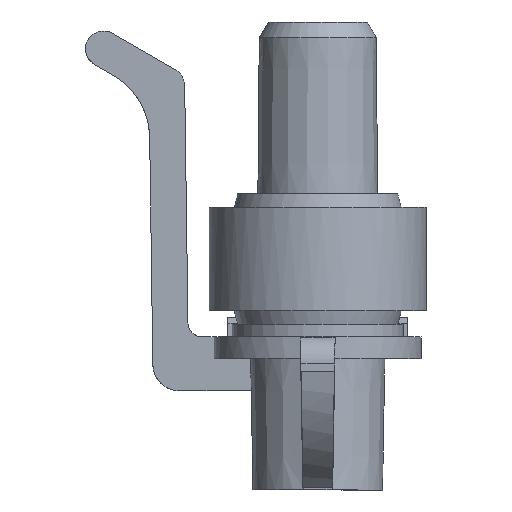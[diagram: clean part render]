
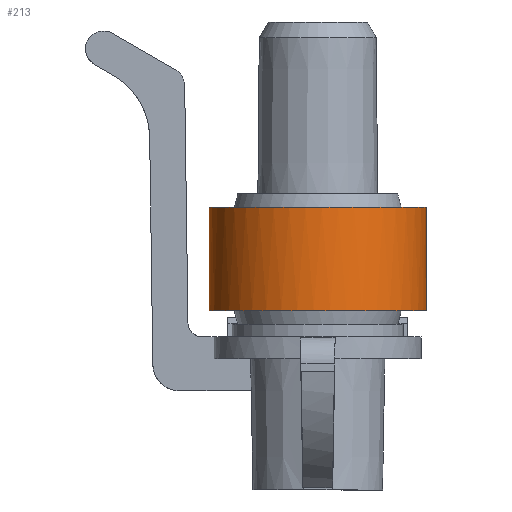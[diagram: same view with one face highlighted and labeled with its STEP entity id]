
A CAD part, left-side view. The second image highlights one B-rep face of the part: STEP entity #213.
In plain terms, the highlighted free-form (B-spline) face has degree [1, 3] with [2, 7] control points.
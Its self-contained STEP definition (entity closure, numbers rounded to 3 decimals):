
#37=B_SPLINE_SURFACE_WITH_KNOTS('',1,3,((#3365,#3366,#3367,#3368,#3369,
#3370,#3371),(#3372,#3373,#3374,#3375,#3376,#3377,#3378)),.UNSPECIFIED.,
 .F.,.F.,.F.,(2,2),(4,1,1,1,4),(0.,1.),(0.,0.25,0.5,0.75,
1.),.UNSPECIFIED.);
#103=B_SPLINE_CURVE_WITH_KNOTS('',3,(#3244,#3245,#3246,#3247,#3248,#3249,
#3250),.UNSPECIFIED.,.F.,.F.,(4,1,1,1,4),(0.,0.25,0.5,0.75,
1.),.UNSPECIFIED.);
#110=B_SPLINE_CURVE_WITH_KNOTS('',3,(#3321,#3322,#3323,#3324,#3325,#3326,
#3327),.UNSPECIFIED.,.F.,.F.,(4,1,1,1,4),(0.,0.25,0.5,0.75,
1.),.UNSPECIFIED.);
#213=ADVANCED_FACE('',(#380),#37,.T.);
#380=FACE_OUTER_BOUND('',#486,.T.);
#486=EDGE_LOOP('',(#1004,#1005,#1006,#1007));
#1004=ORIENTED_EDGE('',*,*,#1555,.T.);
#1005=ORIENTED_EDGE('',*,*,#1568,.T.);
#1006=ORIENTED_EDGE('',*,*,#1572,.T.);
#1007=ORIENTED_EDGE('',*,*,#1556,.T.);
#1296=VERTEX_POINT('',#3236);
#1299=VERTEX_POINT('',#3241);
#1300=VERTEX_POINT('',#3251);
#1307=VERTEX_POINT('',#3320);
#1555=EDGE_CURVE('',#1296,#1299,#1757,.T.);
#1556=EDGE_CURVE('',#1300,#1296,#103,.T.);
#1568=EDGE_CURVE('',#1299,#1307,#110,.T.);
#1572=EDGE_CURVE('',#1307,#1300,#1766,.T.);
#1757=LINE('',#3242,#1947);
#1766=LINE('',#3361,#1956);
#1947=VECTOR('',#2550,1.);
#1956=VECTOR('',#2567,1.);
#2550=DIRECTION('',(0.,0.,-1.));
#2567=DIRECTION('',(0.,0.,1.));
#3236=CARTESIAN_POINT('',(-9.186,6.039,-4.8));
#3241=CARTESIAN_POINT('',(-9.186,6.039,-10.55));
#3242=CARTESIAN_POINT('',(-9.186,6.039,-7.675));
#3244=CARTESIAN_POINT('',(-9.186,-6.039,-4.8));
#3245=CARTESIAN_POINT('',(-10.625,-6.039,-4.8));
#3246=CARTESIAN_POINT('',(-13.877,-4.691,-4.8));
#3247=CARTESIAN_POINT('',(-15.821,0.,-4.8));
#3248=CARTESIAN_POINT('',(-13.877,4.69,-4.8));
#3249=CARTESIAN_POINT('',(-10.625,6.039,-4.8));
#3250=CARTESIAN_POINT('',(-9.186,6.039,-4.8));
#3251=CARTESIAN_POINT('',(-9.186,-6.039,-4.8));
#3320=CARTESIAN_POINT('',(-9.186,-6.039,-10.55));
#3321=CARTESIAN_POINT('',(-9.186,6.039,-10.55));
#3322=CARTESIAN_POINT('',(-10.625,6.039,-10.55));
#3323=CARTESIAN_POINT('',(-13.877,4.69,-10.55));
#3324=CARTESIAN_POINT('',(-15.821,0.,-10.55));
#3325=CARTESIAN_POINT('',(-13.877,-4.691,-10.55));
#3326=CARTESIAN_POINT('',(-10.625,-6.039,-10.55));
#3327=CARTESIAN_POINT('',(-9.186,-6.039,-10.55));
#3361=CARTESIAN_POINT('',(-9.186,-6.039,-7.675));
#3365=CARTESIAN_POINT('',(-9.186,6.039,-4.8));
#3366=CARTESIAN_POINT('',(-10.625,6.039,-4.8));
#3367=CARTESIAN_POINT('',(-13.877,4.69,-4.8));
#3368=CARTESIAN_POINT('',(-15.821,0.,-4.8));
#3369=CARTESIAN_POINT('',(-13.877,-4.691,-4.8));
#3370=CARTESIAN_POINT('',(-10.625,-6.039,-4.8));
#3371=CARTESIAN_POINT('',(-9.186,-6.039,-4.8));
#3372=CARTESIAN_POINT('',(-9.186,6.039,-10.55));
#3373=CARTESIAN_POINT('',(-10.625,6.039,-10.55));
#3374=CARTESIAN_POINT('',(-13.877,4.69,-10.55));
#3375=CARTESIAN_POINT('',(-15.821,0.,-10.55));
#3376=CARTESIAN_POINT('',(-13.877,-4.691,-10.55));
#3377=CARTESIAN_POINT('',(-10.625,-6.039,-10.55));
#3378=CARTESIAN_POINT('',(-9.186,-6.039,-10.55));
